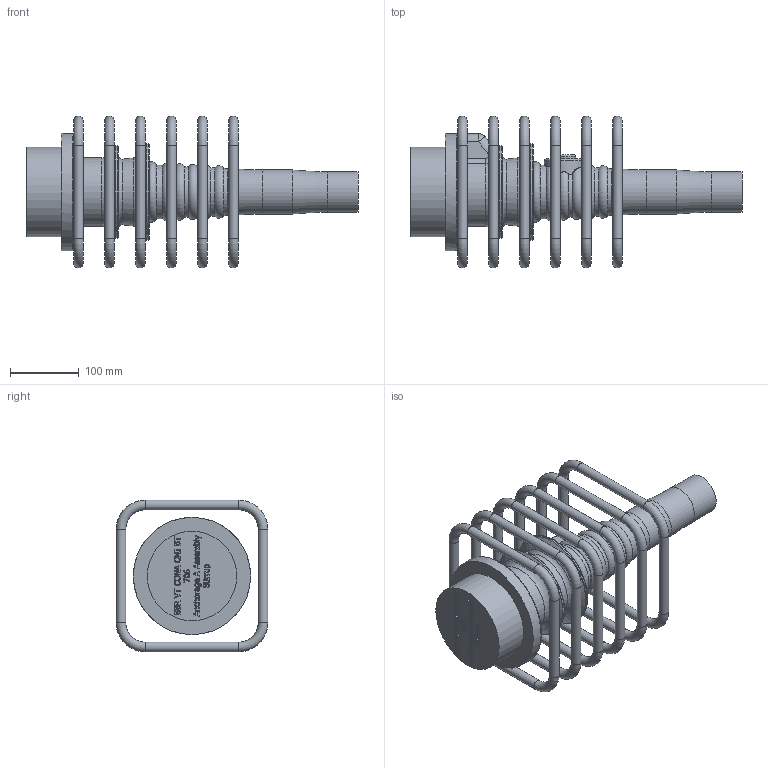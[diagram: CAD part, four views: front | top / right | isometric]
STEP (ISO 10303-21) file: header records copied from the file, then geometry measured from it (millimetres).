
FILE_DESCRIPTION(/* description */ (''),/* implementation_level */ '2;1');
FILE_NAME(/* name */ 'BBR VT CONA CMI BT 706_Anchorage A Assembly_CS-43,35_Stirrup.stp',/* time_stamp */ '2025-04-28T14:07:38+02:00',/* author */ ('tk'),/* organization */ (''),/* preprocessor_version */ 'ST-DEVELOPER v20',/* originating_system */ 'Autodesk Inventor 2024',/* authorisation */ '');
FILE_SCHEMA (('AUTOMOTIVE_DESIGN { 1 0 10303 214 3 1 1 }'));
Length unit declared in the file: millimetre
Products named in the file (1): BBR VT CONA CMI BT 706_Anchorage A Assembly_CS-43,35_Stirrup
Bounding box: 481.84 x 220 x 220 mm (x, y, z)
Volume: 4004842.3 mm3; surface area: 403702.5 mm2
Topology: 7 solids, 7 shells, 839 faces, 2246 edges, 1470 vertices
Faces by surface type: plane 374, bspline 342, torus 61, cylinder 41, sphere 12, cone 9
Full cylindrical faces by diameter (mm): 14 x24, 34 x1, 57 x1, 59 x1, 64 x1, 130 x1, 133.801 x1, 139.387 x1, 170 x1
Entity records: 30589 total; most frequent: CARTESIAN_POINT 10836, ORIENTED_EDGE 4480, DIRECTION 2845, EDGE_CURVE 2240, VERTEX_POINT 1470, LINE 1269, VECTOR 1269, EDGE_LOOP 906
